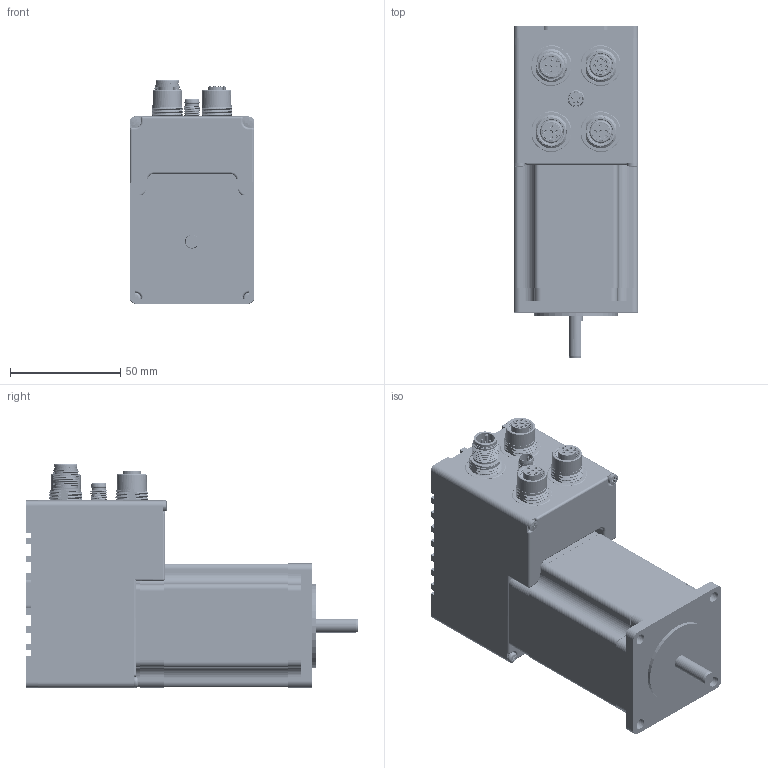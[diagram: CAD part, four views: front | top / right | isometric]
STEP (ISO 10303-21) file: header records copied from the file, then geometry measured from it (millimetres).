
FILE_DESCRIPTION(/* description */ ('Unknown'),/* implementation_level */ '2;1');
FILE_NAME(/* name */ 'SM4D260PC275DM0',/* time_stamp */ '2021-08-31T11:50:09+02:00',/* author */ ('Unknown'),/* organization */ ('Unknown'),/* preprocessor_version */ 'ST-DEVELOPER v16.7',/* originating_system */ 'Solid Edge',/* authorisation */ 'Unknown');
FILE_SCHEMA (('AUTOMOTIVE_DESIGN {1 0 10303 214 3 1 1}'));
Products named in the file (22): SM4D2 con IMD12; dissipatore_imd12_2prot; scatola_sm4d2xx_imd12_2prot; imd12_guarnizione_dissipatore; mica_imd12; hexdist_MF_M2e5 x 12mm; tcc_M2e5x05; tcc_M3x08; imd12_piana_motore; 8-04pmms-sf7001; 8-04PMMS-SF7001; M12A-05PFFS-SF8001-STP; M12A-05PMMS-SF8001-STP; M12A-08PFFS-SF8001-STP; tcc_M2e5x60; tcc_M2e5x47; MT23HE31042A4Z1; ASM0001_ASM_1_ASM; 123_1; MT23HE22028E4LVFRONTENDBELL_2; MT23HE22028E4LVREARENDBELL_2; MT23HE22028E4LVSHAFT_1
Assembly tree (33 placements, depth 4):
  SM4D2 con IMD12
    dissipatore_imd12_2prot
    scatola_sm4d2xx_imd12_2prot
    imd12_guarnizione_dissipatore
    mica_imd12  x2
    hexdist_MF_M2e5 x 12mm  x3
    tcc_M2e5x05  x4
    tcc_M3x08  x4
    imd12_piana_motore
    8-04pmms-sf7001
      8-04PMMS-SF7001
    M12A-05PFFS-SF8001-STP  x2
    M12A-05PMMS-SF8001-STP
    M12A-08PFFS-SF8001-STP
    tcc_M2e5x60  x2
    tcc_M2e5x47  x2
    MT23HE31042A4Z1
      ASM0001_ASM_1_ASM
        123_1
        MT23HE22028E4LVFRONTENDBELL_2
        MT23HE22028E4LVREARENDBELL_2
        MT23HE22028E4LVSHAFT_1
Bounding box: 56.4 x 150.58 x 101.4 mm (x, y, z)
Volume: 195864.5 mm3; surface area: 139054.6 mm2
Topology: 33 solids, 38 shells, 4280 faces, 11667 edges, 7725 vertices
Faces by surface type: plane 2006, cylinder 1119, bspline 797, cone 243, torus 72, sphere 43
Full cylindrical faces by diameter (mm): 0.8 x12, 1 x32, 1.2 x14, 1.25 x8, 1.4 x4, 1.42 x8, 1.45 x5, 1.5 x4, 1.55 x10, 1.62 x10, 1.78 x8, 2.05 x4, 2.5 x22, 2.7 x4, 3 x20, 5 x13, 5.75 x3, 5.8 x1, 6 x4, 6.35 x1, 6.5 x1, 6.9 x1, 8 x1, 8.2 x3, 8.3 x1, 8.6 x1, 9.5 x5, 9.6 x2, 9.8 x3, 10.6 x2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
Entity records: 167194 total; most frequent: CARTESIAN_POINT 74480, ORIENTED_EDGE 17712, DIRECTION 13251, EDGE_CURVE 8860, VERTEX_POINT 6031, LINE 4489, VECTOR 4489, AXIS2_PLACEMENT_3D 4381
